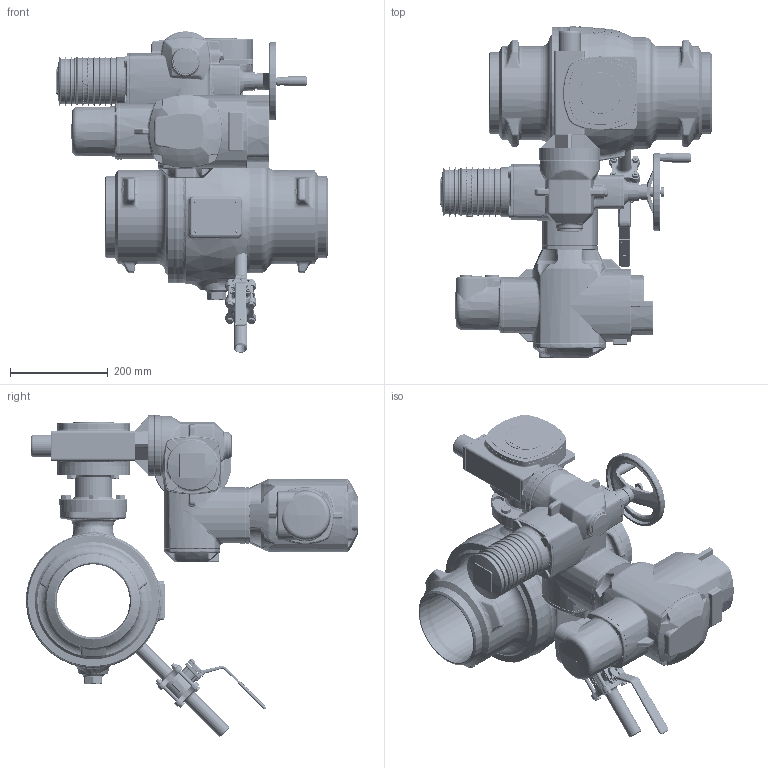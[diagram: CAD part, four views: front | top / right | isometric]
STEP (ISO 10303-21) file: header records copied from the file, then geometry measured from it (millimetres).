
FILE_DESCRIPTION((''),'2;1');
FILE_NAME('150_ASM','2017-01-16T',('schwaba'),('RAND'),'PRO/ENGINEER BY PARAMETRIC TECHNOLOGY CORPORATION, 2016100','PRO/ENGINEER BY PARAMETRIC TECHNOLOGY CORPORATION, 2016100','');
FILE_SCHEMA(('CONFIG_CONTROL_DESIGN'));
Length unit declared in the file: millimetre
Products named in the file (3): KHSVI_150_VVSN_FR_WE_ENTL_O_IT; GS63_F12_SA07_AM_ZWSTK_DN150; 150_ASM
Assembly tree (2 placements, depth 2):
  150_ASM
    KHSVI_150_VVSN_FR_WE_ENTL_O_IT
    GS63_F12_SA07_AM_ZWSTK_DN150
Bounding box: 556.5 x 680.93 x 659.29 mm (x, y, z)
Volume: 24552753.9 mm3; surface area: 2051228.9 mm2
Topology: 3 solids, 11 shells, 6395 faces, 15803 edges, 9589 vertices
Faces by surface type: plane 2520, bspline 1270, cylinder 1165, torus 718, cone 547, sphere 175
Entity records: 349734 total; most frequent: CARTESIAN_POINT 206770, ORIENTED_EDGE 31490, DIRECTION 28157, EDGE_CURVE 15745, AXIS2_PLACEMENT_3D 10992, VERTEX_POINT 9589, EDGE_LOOP 6700, FACE_OUTER_BOUND 6395
